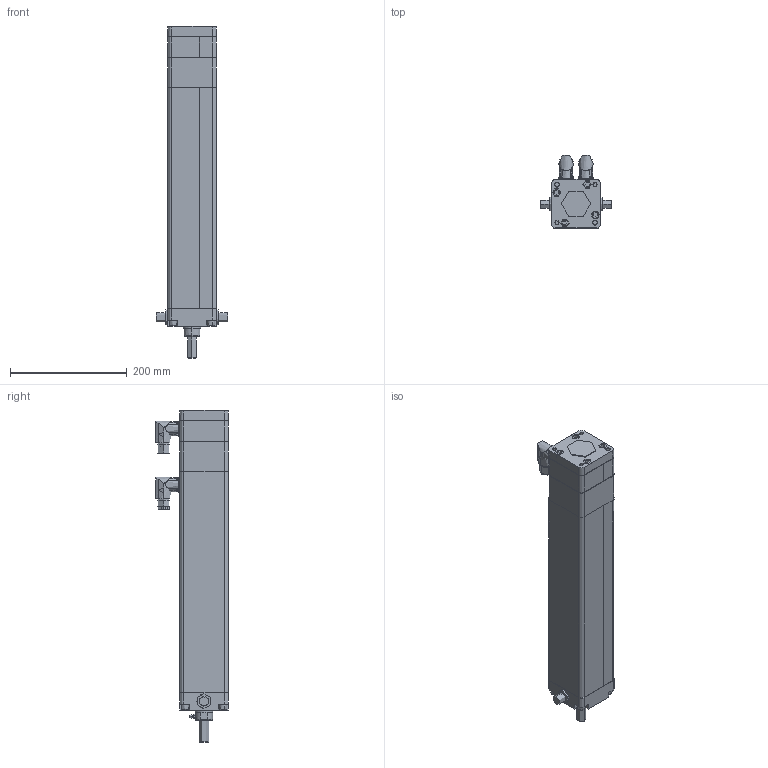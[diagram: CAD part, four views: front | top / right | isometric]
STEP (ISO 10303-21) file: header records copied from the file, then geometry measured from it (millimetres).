
FILE_DESCRIPTION((''),'2;1');
FILE_NAME('MPAI-A3300CM32B_ASM','2009-12-11T',('ALS'),('Rockwell Automation'),'PRO/ENGINEER BY PARAMETRIC TECHNOLOGY CORPORATION, 2004490','PRO/ENGINEER BY PARAMETRIC TECHNOLOGY CORPORATION, 2004490','');
FILE_SCHEMA(('CONFIG_CONTROL_DESIGN'));
Length unit declared in the file: inch
Products named in the file (5): TEMPJOIN0_27339012-71220-2_; BASE-71220-2_ANY; 71220-2_ANY_ASM; _MPAI-A3300CM32B; MPAI-A3300CM32B_ASM
Assembly tree (4 placements, depth 3):
  MPAI-A3300CM32B_ASM
    71220-2_ANY_ASM
      TEMPJOIN0_27339012-71220-2_
      BASE-71220-2_ANY
    _MPAI-A3300CM32B
Bounding box: 122.01 x 124.56 x 567.61 mm (x, y, z)
Topology: 5 solids, 36 shells, 1094 faces, 2792 edges, 1886 vertices
Faces by surface type: plane 578, cylinder 414, cone 80, torus 22
Entity records: 34007 total; most frequent: CARTESIAN_POINT 6364, DIRECTION 5995, ORIENTED_EDGE 5546, EDGE_CURVE 2775, AXIS2_PLACEMENT_3D 2183, VERTEX_POINT 1888, VECTOR 1629, LINE 1629
